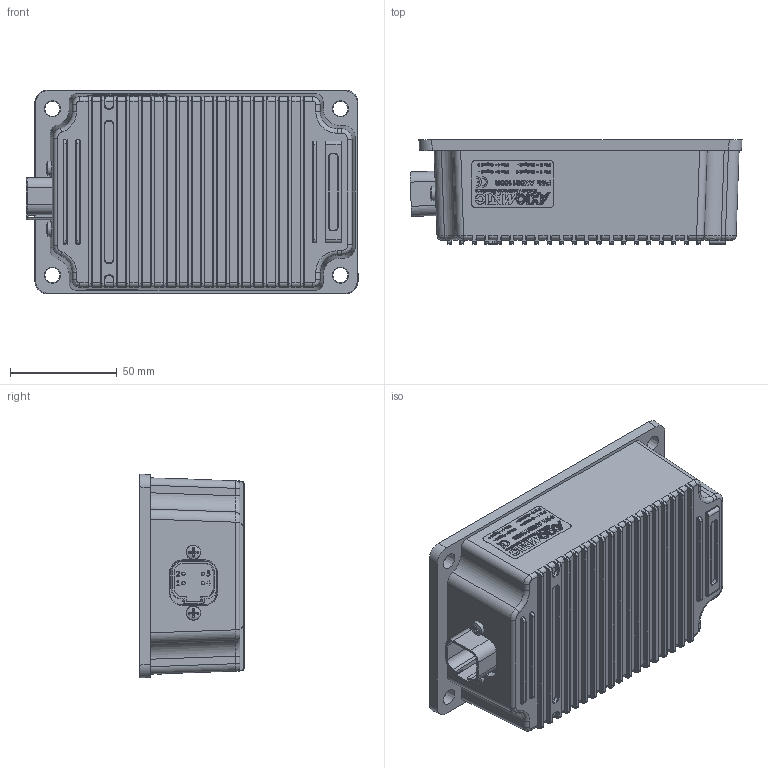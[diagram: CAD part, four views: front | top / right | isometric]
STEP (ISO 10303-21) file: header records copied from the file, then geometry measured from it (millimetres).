
FILE_DESCRIPTION(/* description */ ('','CAx-IF Rec.Pracs.---Representation and Presentation of Product Manufacturing Information (PMI)---3.8---2014-02-18'),/* implementation_level */ '2;1');
FILE_NAME(/* name */ 'S:\Projects\PS-24-24-3A-I-B, AX081100B, Proj_15008\UNIT ASSEMBLY\RELEASED\B\AX081100B.stp',/* time_stamp */ '2020-07-20T23:34:50-04:00',/* author */ ('tfisher'),/* organization */ (''),/* preprocessor_version */ 'ST-DEVELOPER v16.13',/* originating_system */ 'Autodesk Inventor 2018',/* authorisation */ '');
FILE_SCHEMA (('AP242_MANAGED_MODEL_BASED_3D_ENGINEERING_MIM_LF { 1 0 10303 442 1 1 4 }'));
Products named in the file (1): FG-AX081100B for STEP_Shrinkwrap_1
Bounding box: 155.63 x 49 x 95.52 mm (x, y, z)
Volume: 587514.3 mm3; surface area: 61196 mm2
Topology: 17 solids, 17 shells, 2420 faces, 6254 edges, 4092 vertices
Faces by surface type: plane 1435, bspline 560, cylinder 351, cone 48, torus 24, sphere 2
Full cylindrical faces by diameter (mm): 1.524 x10, 1.575 x4, 2.032 x6, 3.048 x10, 8 x4
Entity records: 82658 total; most frequent: CARTESIAN_POINT 24224, ORIENTED_EDGE 12392, DIRECTION 9810, EDGE_CURVE 6182, LINE 4222, VECTOR 4222, VERTEX_POINT 4071, AXIS2_PLACEMENT_3D 2798
